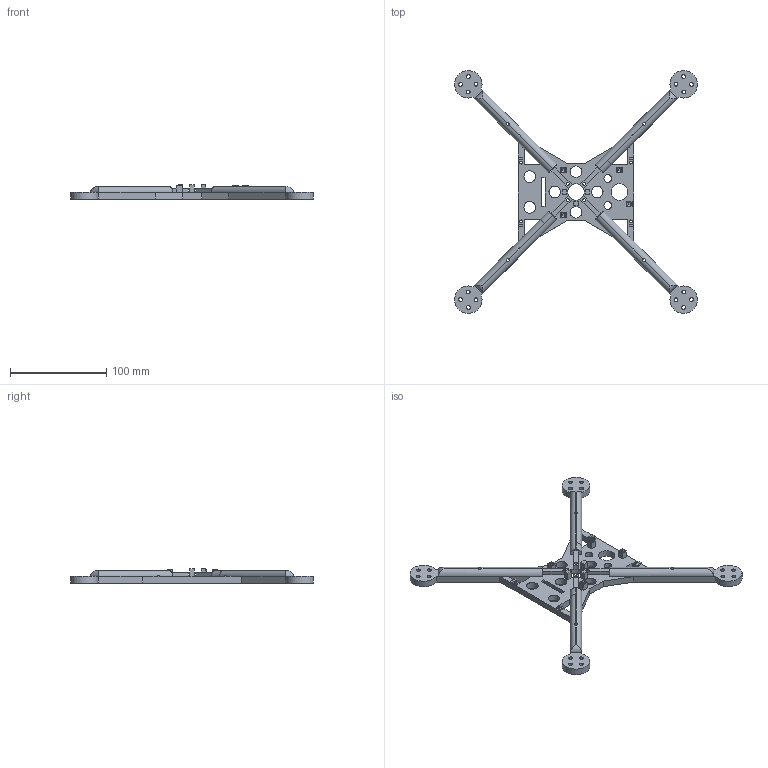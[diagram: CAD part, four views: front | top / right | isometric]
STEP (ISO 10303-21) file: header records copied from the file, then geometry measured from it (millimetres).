
FILE_DESCRIPTION(('FreeCAD Model'),'2;1');
FILE_NAME('Open CASCADE Shape Model','2026-08-19T11:19:26',('Author'),( ''),'Open CASCADE STEP processor 7.8','FreeCAD','Unknown');
FILE_SCHEMA(('AUTOMOTIVE_DESIGN { 1 0 10303 214 1 1 1 1 }'));
Length unit declared in the file: millimetre
Products named in the file (1): Body
Bounding box: 251.84 x 251.84 x 15 mm (x, y, z)
Volume: 123654 mm3; surface area: 49417.9 mm2
Topology: 1 solids, 1 shells, 221 faces, 635 edges, 415 vertices
Faces by surface type: plane 128, cylinder 61, cone 32
Full cylindrical faces by diameter (mm): 2.95 x16, 4 x16, 8 x2, 12 x6, 17 x1, 17.3 x1, 19.1 x1
Entity records: 7701 total; most frequent: CARTESIAN_POINT 1638, ORIENTED_EDGE 1270, DIRECTION 1212, EDGE_CURVE 635, LINE 420, VECTOR 420, VERTEX_POINT 415, AXIS2_PLACEMENT_3D 396
